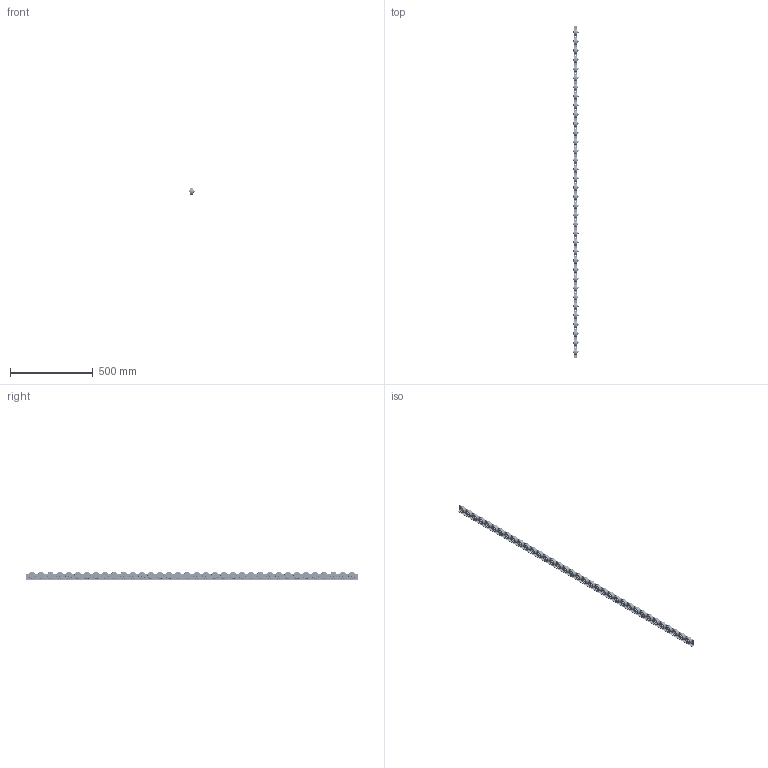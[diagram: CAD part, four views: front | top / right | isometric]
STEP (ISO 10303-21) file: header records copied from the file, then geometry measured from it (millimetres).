
FILE_DESCRIPTION( ( 'Unknown' ), '1' );
FILE_NAME( 'D:/Construktor/Listwy rolkowe 2015/Listwa T800G/Listwa T800G.stp', 'Unknown', ( 'Unknown' ), ( 'Unknown' ), 'PSStep 17.0.49', 'Unknown', ' ' );
FILE_SCHEMA( ( 'AUTOMOTIVE_DESIGN { 1 0 10303 214 1 1 1 1 }' ) );
Length unit declared in the file: millimetre
Products named in the file (9): Rolka T 610; Wewnetrzna Rolka 610; Zewnetrzna Rolka 610; Assem1; DIN_931_M8x35; DIN_931_M8x35-oa0; DIN_931_M8x35-oa1; Nut_DIN_980_M_M8_v10.50; Ceownik T800G
Assembly tree (111 placements, depth 3):
  Assem1
    DIN_931_M8x35  x34
    DIN_931_M8x35-oa0
    DIN_931_M8x35-oa1
    Nut_DIN_980_M_M8_v10.50  x36
    Ceownik T800G
    Rolka T 610  x36
      Wewnetrzna Rolka 610
      Zewnetrzna Rolka 610
Bounding box: 30.3 x 2000 x 50.15 mm (x, y, z)
Volume: 1061272 mm3; surface area: 662306.5 mm2
Topology: 145 solids, 145 shells, 3556 faces, 8556 edges, 5578 vertices
Faces by surface type: plane 2168, cylinder 632, cone 540, torus 216
Full cylindrical faces by diameter (mm): 6.2 x18, 6.466 x36, 6.647 x36, 6.697 x36, 8 x72, 8.2 x36, 8.3 x36, 8.4 x36, 11.63 x36, 12.5 x36, 14 x72, 23 x72, 28 x72, 42.3 x36
Entity records: 8782 total; most frequent: CARTESIAN_POINT 1418, DIRECTION 1218, ORIENTED_EDGE 820, AXIS2_PLACEMENT_3D 546, EDGE_LOOP 430, EDGE_CURVE 410, VERTEX_POINT 322, FACE_OUTER_BOUND 295
